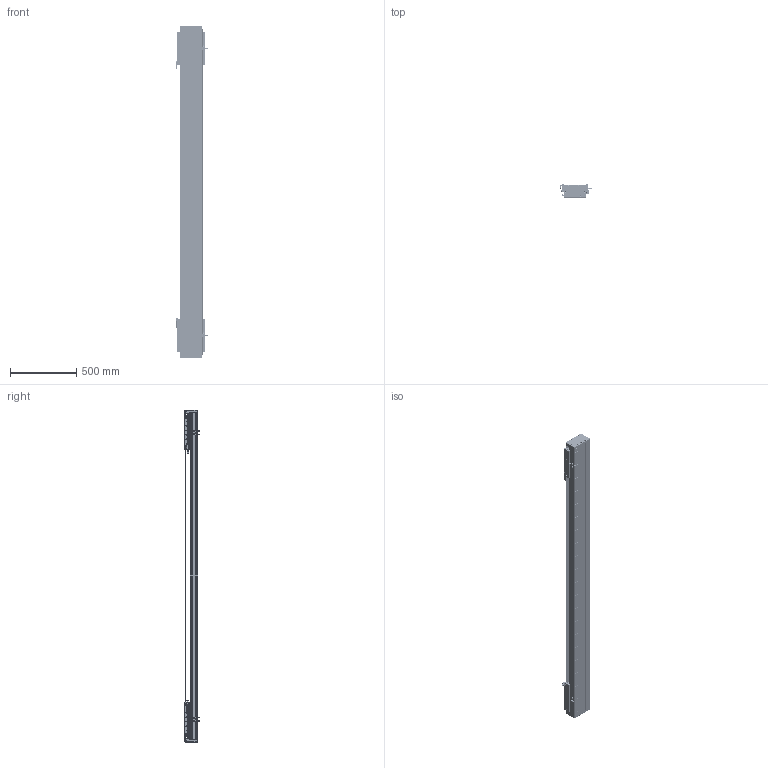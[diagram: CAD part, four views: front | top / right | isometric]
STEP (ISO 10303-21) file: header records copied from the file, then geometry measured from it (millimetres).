
FILE_DESCRIPTION (( 'STEP AP203' ), '1' );
FILE_NAME ('DA-C165-2-C3-T1880-C010-0.2 直线电机.STEP', '2023-06-13T09:21:06', ( '微软用户' ), ( '微软中国' ), 'SwSTEP 2.0', 'SolidWorks 2019', '' );
FILE_SCHEMA (( 'CONFIG_CONTROL_DESIGN' ));
Length unit declared in the file: millimetre
Products named in the file (22): 复件 DMA-010-0.2 读数头^DA-C165-C3-T-C010-0.2-N 直线电机; 葩璃 CKM01-W075-TRL^DA-C165-C3-T-C010-0.2-N 眻盄萇儂; 葩璃 DA95-GT-T-00^IU-CU165-L 菁釱絳寢_T; 复件 DA165-GDYK-00 钢带压块^复件 CU165钢带组件_DA-C165-C3-T-C010-0.2-N 直线电机; 复件 DA165-GDLK-00 钢带拉块^复件 CU165钢带组件_DA-C165-C3-T-C010-0.2-N 直线电机; 复件 DA126-GYP-ZJ-00 中间光电感应片^DA-C165-C3-T-C010-0.2-N 直线电机; 珨极趙賑雄怢啣C3-wf; 复件 CU165钢带组件^DA-C165-C3-T-C010-0.2-N 直线电机; 复件 六角薄螺母 M3^DA-C165-C3-T-C010-0.2-N 直线电机_GB_FASTENER_NUT_STNAB M3-C; 葩璃 CKM03-W075-C1C2-TP-3.0^DA-C165-C3-T-C010-0.2-N 眻盄萇儂; 复件 CU165 底座^IU-CU165-L 底座导轨_L2460; 葩璃 PM-T45^DA-C165-C3-T-C010-0.2-N 眻盄萇儂; 复件 XD-U-02L 磁栅尺^DA-C165-C3-T-C010-0.2-N 直线电机_T; 复件 DA95-HXJ-00 缓冲橡胶^DA-C165-C3-T-C010-0.2-N 直线电机; 葩璃 PM-Y45^DA-C165-C3-T-C010-0.2-N 眻盄萇儂; 复件 DKW-HXJ-JY-00 缓冲橡胶^DA-C165-C3-T-C010-0.2-N 直线电机; 复件 DA165-GD-DG-H-00 端盖^复件 CU165钢带组件_DA-C165-C3-T-C010-0.2-N 直线电机; IU-CU165-L 菁釱絳寢; 复件 DA165-GD-1860-002-00 钢带盖板^复件 CU165钢带组件_DA-C165-C3-T-C010-0.2-N 直线电机; DA-C165-2-C3-T1880-C010-0.2 眻盄萇儂; 复件 66338-1000-006-00 光电感应块^DA-C165-C3-T-C010-0.2-N 直线电机; 复件 DA165-GYP-00 光电感应片^DA-C165-C3-T-C010-0.2-N 直线电机
Assembly tree (45 placements, depth 3):
  DA-C165-2-C3-T1880-C010-0.2 眻盄萇儂
    IU-CU165-L 菁釱絳寢
      复件 CU165 底座^IU-CU165-L 底座导轨_L2460
      葩璃 DA95-GT-T-00^IU-CU165-L 菁釱絳寢_T  x4
    复件 XD-U-02L 磁栅尺^DA-C165-C3-T-C010-0.2-N 直线电机_T
    葩璃 PM-T45^DA-C165-C3-T-C010-0.2-N 眻盄萇儂  x4
    葩璃 CKM01-W075-TRL^DA-C165-C3-T-C010-0.2-N 眻盄萇儂
    复件 CU165钢带组件^DA-C165-C3-T-C010-0.2-N 直线电机
      复件 DA165-GD-DG-H-00 端盖^复件 CU165钢带组件_DA-C165-C3-T-C010-0.2-N 直线电机  x2
      复件 DA165-GDYK-00 钢带压块^复件 CU165钢带组件_DA-C165-C3-T-C010-0.2-N 直线电机  x2
      复件 DA165-GD-1860-002-00 钢带盖板^复件 CU165钢带组件_DA-C165-C3-T-C010-0.2-N 直线电机
      复件 DA165-GDLK-00 钢带拉块^复件 CU165钢带组件_DA-C165-C3-T-C010-0.2-N 直线电机  x2
    复件 DA95-HXJ-00 缓冲橡胶^DA-C165-C3-T-C010-0.2-N 直线电机  x4
    复件 DMA-010-0.2 读数头^DA-C165-C3-T-C010-0.2-N 直线电机  x2
    复件 DA165-GYP-00 光电感应片^DA-C165-C3-T-C010-0.2-N 直线电机  x2
    复件 66338-1000-006-00 光电感应块^DA-C165-C3-T-C010-0.2-N 直线电机
    葩璃 PM-Y45^DA-C165-C3-T-C010-0.2-N 眻盄萇儂
    复件 DA126-GYP-ZJ-00 中间光电感应片^DA-C165-C3-T-C010-0.2-N 直线电机
    葩璃 CKM03-W075-C1C2-TP-3.0^DA-C165-C3-T-C010-0.2-N 眻盄萇儂  x2
    复件 DKW-HXJ-JY-00 缓冲橡胶^DA-C165-C3-T-C010-0.2-N 直线电机  x2
    复件 六角薄螺母 M3^DA-C165-C3-T-C010-0.2-N 直线电机_GB_FASTENER_NUT_STNAB M3-C  x8
    珨极趙賑雄怢啣C3-wf  x2
Bounding box: 247.2 x 111.45 x 2500 mm (x, y, z)
Volume: 16657775.2 mm3; surface area: 4670742.9 mm2
Topology: 121 solids, 221 shells, 6505 faces, 17706 edges, 11010 vertices
Faces by surface type: cylinder 3422, plane 2015, cone 980, torus 80, sphere 8
Entity records: 145708 total; most frequent: CARTESIAN_POINT 38589, ORIENTED_EDGE 21996, DIRECTION 21628, EDGE_CURVE 10998, AXIS2_PLACEMENT_3D 8251, VERTEX_POINT 7164, LINE 5126, VECTOR 5126
